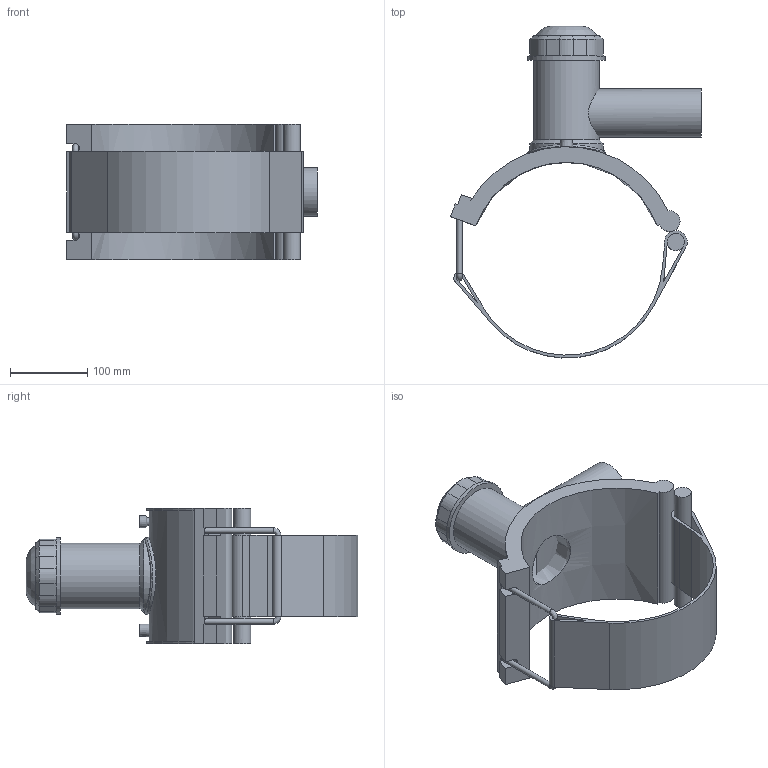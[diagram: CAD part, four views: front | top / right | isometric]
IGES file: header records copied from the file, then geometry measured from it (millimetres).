
Global section: file name: 496304250063.ipt; native system: Autodesk Inventor 2015; preprocessor: unknown; author: KIM; date: 20190124.131304; units: millimetre
Bounding box: 325.35 x 430.55 x 176 mm (x, y, z)
Volume: 2061410.8 mm3; surface area: 411529.1 mm2
Topology: 2 solids, 2 shells, 121 faces, 301 edges, 191 vertices
Faces by surface type: plane 68, cylinder 29, revolution 12, cone 11, bspline 1
Full cylindrical faces by diameter (mm): 4 x2, 7 x2, 22.115 x1, 63 x1, 85 x1, 95 x1, 100 x2
